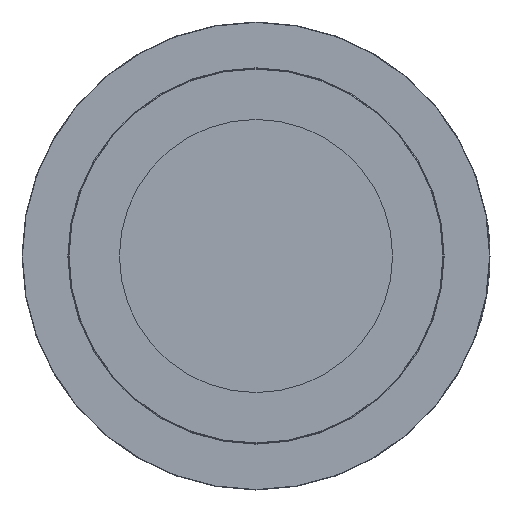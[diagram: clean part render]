
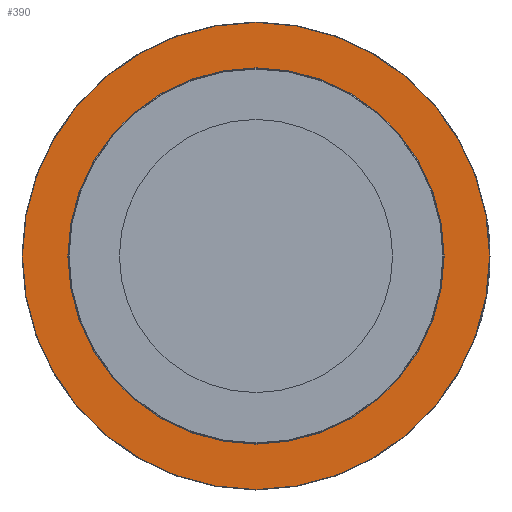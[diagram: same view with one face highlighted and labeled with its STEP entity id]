
A CAD part, left-side view. The second image highlights one B-rep face of the part: STEP entity #390.
In plain terms, the highlighted planar face has unit normal (-1, 0, 0).
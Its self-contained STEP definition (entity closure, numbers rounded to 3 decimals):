
#390 = ADVANCED_FACE( '', ( #914, #915 ), #916, .F. );
#914 = FACE_BOUND( '', #2036, .T. );
#915 = FACE_OUTER_BOUND( '', #2037, .T. );
#916 = PLANE( '', #2038 );
#2036 = EDGE_LOOP( '', ( #4360 ) );
#2037 = EDGE_LOOP( '', ( #4361 ) );
#2038 = AXIS2_PLACEMENT_3D( '', #4362, #4363, #4364 );
#4360 = ORIENTED_EDGE( '', *, *, #5866, .F. );
#4361 = ORIENTED_EDGE( '', *, *, #5867, .T. );
#4362 = CARTESIAN_POINT( '', ( 161.004, 0., 266.192 ) );
#4363 = DIRECTION( '', ( 1., 0., 0. ) );
#4364 = DIRECTION( '', ( 0., 0., -1. ) );
#5866 = EDGE_CURVE( '', #6843, #6843, #6844, .T. );
#5867 = EDGE_CURVE( '', #6845, #6845, #6846, .T. );
#6843 = VERTEX_POINT( '', #8897 );
#6844 = CIRCLE( '', #8898, 214.395 );
#6845 = VERTEX_POINT( '', #8899 );
#6846 = CIRCLE( '', #8900, 266.192 );
#8897 = CARTESIAN_POINT( '', ( 161.004, 0., 214.395 ) );
#8898 = AXIS2_PLACEMENT_3D( '', #10263, #10264, #10265 );
#8899 = CARTESIAN_POINT( '', ( 161.004, 0., 266.192 ) );
#8900 = AXIS2_PLACEMENT_3D( '', #10266, #10267, #10268 );
#10263 = CARTESIAN_POINT( '', ( 161.004, 0., 0. ) );
#10264 = DIRECTION( '', ( -1., 0., 0. ) );
#10265 = DIRECTION( '', ( 0., 0., 1. ) );
#10266 = CARTESIAN_POINT( '', ( 161.004, 0., 0. ) );
#10267 = DIRECTION( '', ( -1., 0., 0. ) );
#10268 = DIRECTION( '', ( 0., 0., 1. ) );
